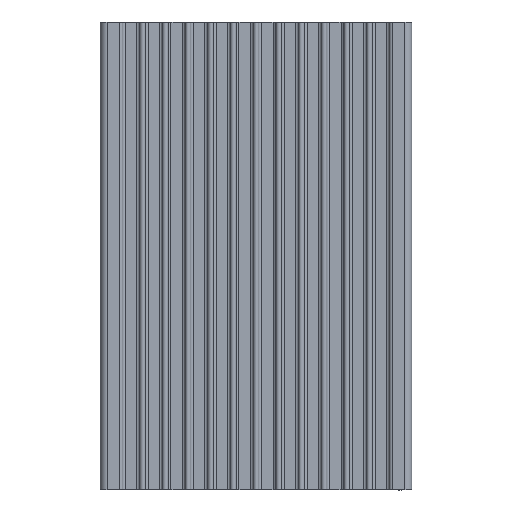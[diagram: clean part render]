
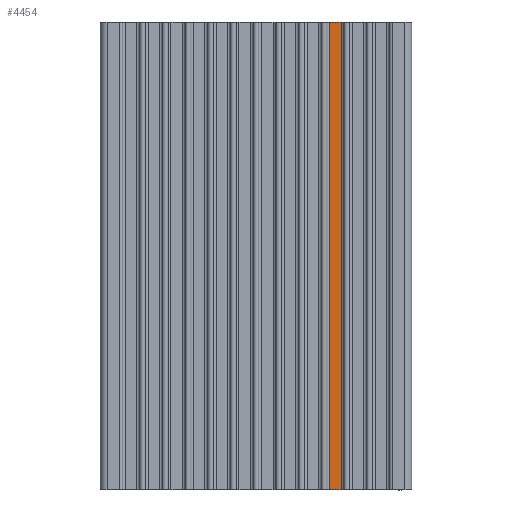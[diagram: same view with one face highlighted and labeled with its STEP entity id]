
A CAD part, top view. The second image highlights one B-rep face of the part: STEP entity #4454.
In plain terms, the highlighted planar face has unit normal (0, 0, 1).
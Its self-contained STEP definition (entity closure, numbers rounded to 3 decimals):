
#88 = ORIENTED_EDGE ( 'NONE', *, *, #6568, .T. ) ;
#247 = AXIS2_PLACEMENT_3D ( 'NONE', #2970, #5108, #3508 ) ;
#277 = CARTESIAN_POINT ( 'NONE',  ( 24.785, 165., 21.992 ) ) ;
#280 = ORIENTED_EDGE ( 'NONE', *, *, #5548, .T. ) ;
#371 = VERTEX_POINT ( 'NONE', #6278 ) ;
#519 = CARTESIAN_POINT ( 'NONE',  ( 24.785, 165., 21.992 ) ) ;
#700 = DIRECTION ( 'NONE',  ( 0., -1., 0. ) ) ;
#1036 = CARTESIAN_POINT ( 'NONE',  ( 28.785, 165., 21.992 ) ) ;
#1302 = DIRECTION ( 'NONE',  ( 1., 0., 0. ) ) ;
#1346 = CARTESIAN_POINT ( 'NONE',  ( 28.785, 165., 21.992 ) ) ;
#1372 = VERTEX_POINT ( 'NONE', #519 ) ;
#1438 = VERTEX_POINT ( 'NONE', #3496 ) ;
#1453 = PLANE ( 'NONE',  #247 ) ;
#1674 = ORIENTED_EDGE ( 'NONE', *, *, #4814, .F. ) ;
#2542 = EDGE_LOOP ( 'NONE', ( #280, #4552, #1674, #88 ) ) ;
#2685 = DIRECTION ( 'NONE',  ( 0., -1., 0. ) ) ;
#2970 = CARTESIAN_POINT ( 'NONE',  ( 28.785, 165., 21.992 ) ) ;
#3194 = LINE ( 'NONE', #277, #6389 ) ;
#3222 = VECTOR ( 'NONE', #4448, 1000. ) ;
#3496 = CARTESIAN_POINT ( 'NONE',  ( 24.785, 0., 21.992 ) ) ;
#3508 = DIRECTION ( 'NONE',  ( -1., 0., 0. ) ) ;
#3887 = CARTESIAN_POINT ( 'NONE',  ( 28.785, 0., 21.992 ) ) ;
#4018 = FACE_OUTER_BOUND ( 'NONE', #2542, .T. ) ;
#4301 = VECTOR ( 'NONE', #1302, 1000. ) ;
#4448 = DIRECTION ( 'NONE',  ( 1., 0., 0. ) ) ;
#4454 = ADVANCED_FACE ( 'NONE', ( #4018 ), #1453, .F. ) ;
#4467 = LINE ( 'NONE', #3887, #4301 ) ;
#4552 = ORIENTED_EDGE ( 'NONE', *, *, #4620, .F. ) ;
#4620 = EDGE_CURVE ( 'NONE', #5257, #371, #6225, .T. ) ;
#4776 = CARTESIAN_POINT ( 'NONE',  ( 28.785, 165., 21.992 ) ) ;
#4814 = EDGE_CURVE ( 'NONE', #1372, #5257, #5967, .T. ) ;
#5108 = DIRECTION ( 'NONE',  ( 0., 0., -1. ) ) ;
#5257 = VERTEX_POINT ( 'NONE', #1036 ) ;
#5548 = EDGE_CURVE ( 'NONE', #1438, #371, #4467, .T. ) ;
#5833 = VECTOR ( 'NONE', #700, 1000. ) ;
#5967 = LINE ( 'NONE', #1346, #3222 ) ;
#6225 = LINE ( 'NONE', #4776, #5833 ) ;
#6278 = CARTESIAN_POINT ( 'NONE',  ( 28.785, 0., 21.992 ) ) ;
#6389 = VECTOR ( 'NONE', #2685, 1000. ) ;
#6568 = EDGE_CURVE ( 'NONE', #1372, #1438, #3194, .T. ) ;
